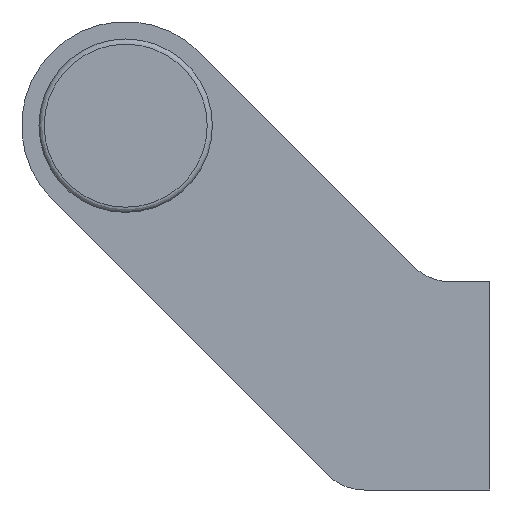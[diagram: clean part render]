
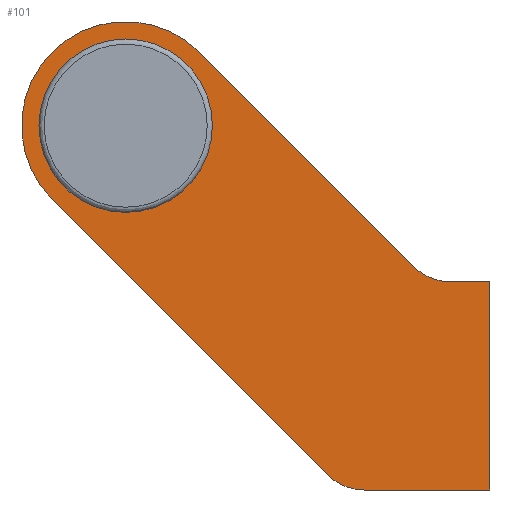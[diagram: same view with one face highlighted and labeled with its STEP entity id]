
A CAD part, left-side view. The second image highlights one B-rep face of the part: STEP entity #101.
In plain terms, the highlighted planar face has unit normal (-1, 0, 0).
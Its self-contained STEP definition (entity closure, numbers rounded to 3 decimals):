
#101 = ADVANCED_FACE( '', ( #171, #172 ), #173, .F. );
#171 = FACE_BOUND( '', #254, .T. );
#172 = FACE_OUTER_BOUND( '', #255, .T. );
#173 = PLANE( '', #256 );
#254 = EDGE_LOOP( '', ( #458 ) );
#255 = EDGE_LOOP( '', ( #459, #460, #461, #462, #463, #464, #465, #466 ) );
#256 = AXIS2_PLACEMENT_3D( '', #467, #468, #469 );
#458 = ORIENTED_EDGE( '', *, *, #547, .T. );
#459 = ORIENTED_EDGE( '', *, *, #512, .F. );
#460 = ORIENTED_EDGE( '', *, *, #548, .F. );
#461 = ORIENTED_EDGE( '', *, *, #551, .F. );
#462 = ORIENTED_EDGE( '', *, *, #501, .F. );
#463 = ORIENTED_EDGE( '', *, *, #553, .F. );
#464 = ORIENTED_EDGE( '', *, *, #556, .T. );
#465 = ORIENTED_EDGE( '', *, *, #509, .F. );
#466 = ORIENTED_EDGE( '', *, *, #505, .F. );
#467 = CARTESIAN_POINT( '', ( -181., 42., 30. ) );
#468 = DIRECTION( '', ( 1., 0., 0. ) );
#469 = DIRECTION( '', ( 0., 0., -1. ) );
#501 = EDGE_CURVE( '', #566, #567, #568, .T. );
#505 = EDGE_CURVE( '', #574, #575, #576, .T. );
#509 = EDGE_CURVE( '', #575, #582, #583, .T. );
#512 = EDGE_CURVE( '', #587, #574, #588, .T. );
#547 = EDGE_CURVE( '', #648, #648, #649, .T. );
#548 = EDGE_CURVE( '', #650, #587, #651, .T. );
#551 = EDGE_CURVE( '', #567, #650, #655, .T. );
#553 = EDGE_CURVE( '', #657, #566, #658, .T. );
#556 = EDGE_CURVE( '', #657, #582, #662, .T. );
#566 = VERTEX_POINT( '', #674 );
#567 = VERTEX_POINT( '', #675 );
#568 = LINE( '', #676, #677 );
#574 = VERTEX_POINT( '', #686 );
#575 = VERTEX_POINT( '', #687 );
#576 = CIRCLE( '', #688, 12. );
#582 = VERTEX_POINT( '', #696 );
#583 = LINE( '', #697, #698 );
#587 = VERTEX_POINT( '', #704 );
#588 = LINE( '', #705, #706 );
#648 = VERTEX_POINT( '', #786 );
#649 = CIRCLE( '', #787, 10. );
#650 = VERTEX_POINT( '', #788 );
#651 = CIRCLE( '', #789, 6. );
#655 = LINE( '', #794, #795 );
#657 = VERTEX_POINT( '', #798 );
#658 = LINE( '', #799, #800 );
#662 = CIRCLE( '', #806, 6. );
#674 = CARTESIAN_POINT( '', ( -181., 0., 12. ) );
#675 = CARTESIAN_POINT( '', ( -181., 0., -12. ) );
#676 = CARTESIAN_POINT( '', ( -181., 0., 12. ) );
#677 = VECTOR( '', #819, 1000. );
#686 = CARTESIAN_POINT( '', ( -181., 50.486, 21.515 ) );
#687 = CARTESIAN_POINT( '', ( -181., 33.515, 38.486 ) );
#688 = AXIS2_PLACEMENT_3D( '', #823, #824, #825 );
#696 = CARTESIAN_POINT( '', ( -181., 8.782, 13.757 ) );
#697 = CARTESIAN_POINT( '', ( -181., 33.515, 38.486 ) );
#698 = VECTOR( '', #831, 1000. );
#704 = CARTESIAN_POINT( '', ( -181., 18.733, -10.242 ) );
#705 = CARTESIAN_POINT( '', ( -181., 18.733, -10.242 ) );
#706 = VECTOR( '', #834, 1000. );
#786 = CARTESIAN_POINT( '', ( -181., 42., 20. ) );
#787 = AXIS2_PLACEMENT_3D( '', #897, #898, #899 );
#788 = CARTESIAN_POINT( '', ( -181., 14.49, -12. ) );
#789 = AXIS2_PLACEMENT_3D( '', #900, #901, #902 );
#794 = CARTESIAN_POINT( '', ( -181., 0., -12. ) );
#795 = VECTOR( '', #907, 1000. );
#798 = CARTESIAN_POINT( '', ( -181., 4.54, 12. ) );
#799 = CARTESIAN_POINT( '', ( -181., 4.54, 12. ) );
#800 = VECTOR( '', #909, 1000. );
#806 = AXIS2_PLACEMENT_3D( '', #912, #913, #914 );
#819 = DIRECTION( '', ( 0., 0., -1. ) );
#823 = CARTESIAN_POINT( '', ( -181., 42., 30. ) );
#824 = DIRECTION( '', ( 1., 0., 0. ) );
#825 = DIRECTION( '', ( 0., 0., -1. ) );
#831 = DIRECTION( '', ( 0., -0.707, -0.707 ) );
#834 = DIRECTION( '', ( 0., 0.707, 0.707 ) );
#897 = CARTESIAN_POINT( '', ( -181., 42., 30. ) );
#898 = DIRECTION( '', ( 1., 0., 0. ) );
#899 = DIRECTION( '', ( 0., 0., -1. ) );
#900 = CARTESIAN_POINT( '', ( -181., 14.49, -6. ) );
#901 = DIRECTION( '', ( 1., 0., 0. ) );
#902 = DIRECTION( '', ( 0., 0., -1. ) );
#907 = DIRECTION( '', ( 0., 1., 0. ) );
#909 = DIRECTION( '', ( 0., -1., 0. ) );
#912 = CARTESIAN_POINT( '', ( -181., 4.54, 18. ) );
#913 = DIRECTION( '', ( 1., 0., 0. ) );
#914 = DIRECTION( '', ( 0., 0., -1. ) );
